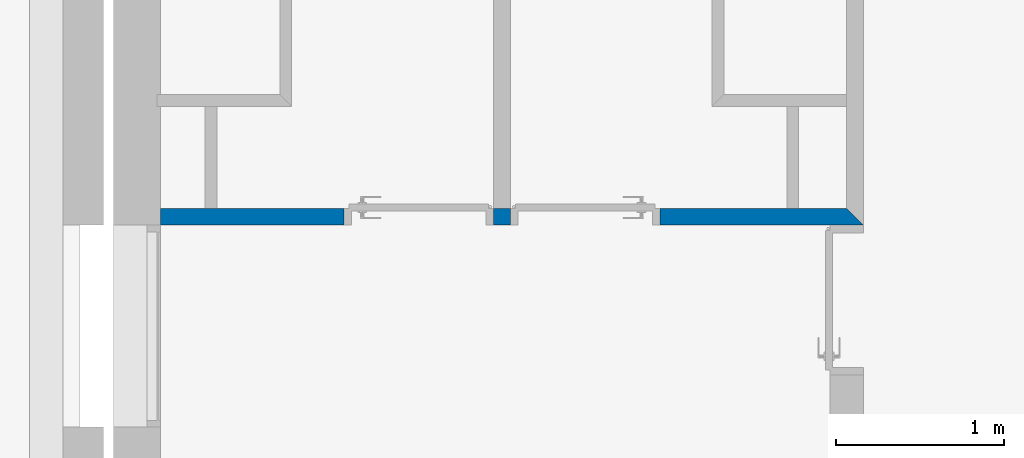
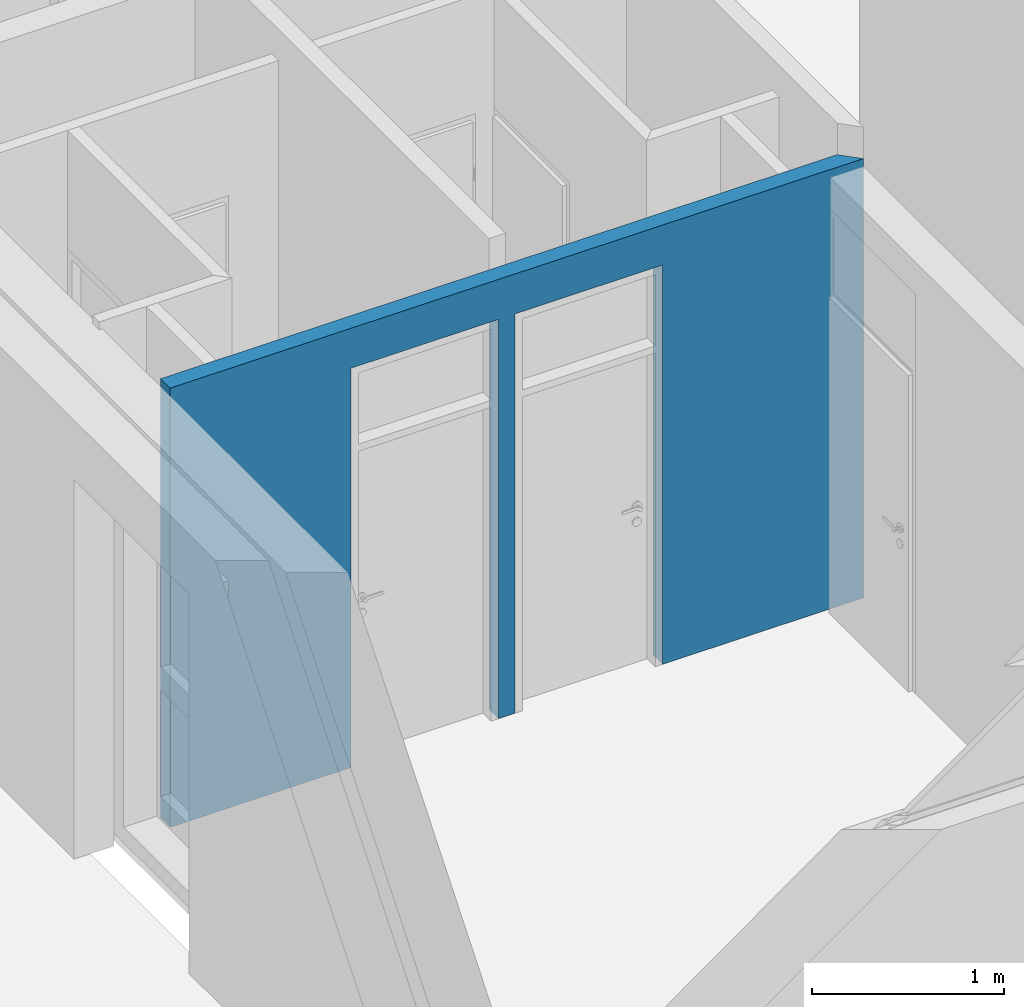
# One storey, part 4 of 45: 1 wall, 2 openings.
"""IFC2X3 building model written with IfcOpenShell, lengths in metres."""

from ifc_helpers import new_model, entity, si_unit, converted_unit, money_unit, direction, frame, origin_with_axes, place, context, subcontext, project, spatial, polyline, outline, extrude, material, layer, layer_set, layer_usage, type_object, element, save


model = new_model("IFC2X3")

# Units and contexts
model_context = context("Model", 3, precision=1e-05, world=origin_with_axes(), true_north=direction((0.0, 1.0)))
body_context = subcontext(model_context, "Body", "Model", "MODEL_VIEW")
ifc_project = project(units=[si_unit("LENGTHUNIT", "METRE"), si_unit("AREAUNIT", "SQUARE_METRE"), si_unit("VOLUMEUNIT", "CUBIC_METRE"), converted_unit("PLANEANGLEUNIT", "DEGREE", entity("IfcPlaneAngleMeasure", 0.0174532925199), si_unit("PLANEANGLEUNIT", "RADIAN"), dimensions=[0, 0, 0, 0, 0, 0, 0]), si_unit("SOLIDANGLEUNIT", "STERADIAN"), money_unit("EUR"), converted_unit("TIMEUNIT", "Year", entity("IfcTimeMeasure", 31556926.0), si_unit("TIMEUNIT", "SECOND"), dimensions=[0, 0, 0, 0, 0, 0, 0]), si_unit("MASSUNIT", "GRAM"), si_unit("THERMODYNAMICTEMPERATUREUNIT", "DEGREE_CELSIUS"), si_unit("LUMINOUSINTENSITYUNIT", "LUMEN")], contexts=[model_context])

# Site, building, storey
site_placement = place(None, origin_with_axes())
site = spatial("IfcSite", under=ifc_project, at=site_placement, Name="Site", CompositionType="ELEMENT")
building_placement = place(site_placement, origin_with_axes())
building = spatial("IfcBuilding", under=site, at=building_placement, Name="Bâtiment", CompositionType="ELEMENT")
storey_placement = place(building_placement, origin_with_axes())
storey = spatial("IfcBuildingStorey", under=building, at=storey_placement, Name="NIVEAU BAS GYMNASE", CompositionType="ELEMENT", Elevation=0.0)

# Wall, openings
ifc_material = material(Name="Hachure solide* 3962059836")
ifc_layer = layer(ifc_material, 0.1, ventilated="UNKNOWN")
ifc_layer_set = layer_set([ifc_layer], Name="Hachure solide* 3962059836 0.1")
ifc_layer_usage = layer_usage(ifc_layer_set, "AXIS2", "POSITIVE", 0.0)
wall_type = type_object("IfcWallType", Name="Hachure solide* 3962059836 100", PredefinedType="NOTDEFINED")
wall_placement = place(storey_placement, frame((45.478457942, 9.93881571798, 0.0), z_axis=(0.0, 0.0, 1.0), x_axis=(1.0, 0.0, 0.0)))
wall = element("IfcWallStandardCase", 1, at=wall_placement, inside=storey, type_object=wall_type, material=ifc_layer_usage, Name="Mur-001", context=body_context, shape_type="SweptSolid", body=[
    extrude(outline(polyline([(0.28, 0.0), (4.46, 0.0), (4.36, 0.1), (0.28, 0.1), (0.28, 0.0)])), origin_with_axes(), (0.0, 0.0, 1.0), 2.8),
])
opening_1_placement = place(wall_placement, frame((2.80499999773, 0.0, -0.01), z_axis=(0.0, 0.0, 1.0), x_axis=(1.0, 0.0, 0.0)))
element("IfcOpeningElement", 2, at=opening_1_placement, cuts=wall, Name="Por-017", context=body_context, shape_type="SweptSolid", body=[
    extrude(outline(polyline([(0.445, 0.0), (-0.445, 0.0), (-0.445, -2.555), (0.445, -2.555), (0.445, 0.0)])), frame((0.0, -0.1, 0.0), z_axis=(0.0, 1.0, 0.0), x_axis=(1.0, 0.0, 0.0)), (0.0, 0.0, 1.0), 0.2),
])
opening_2_placement = place(wall_placement, frame((1.81500000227, 0.0, -0.01), z_axis=(0.0, 0.0, 1.0), x_axis=(1.0, 0.0, 0.0)))
element("IfcOpeningElement", 3, at=opening_2_placement, cuts=wall, Name="Por-018", context=body_context, shape_type="SweptSolid", body=[
    extrude(outline(polyline([(-0.445, 0.0), (-0.445, -2.555), (0.445, -2.555), (0.445, 0.0), (-0.445, 0.0)])), frame((0.0, -0.1, 0.0), z_axis=(0.0, 1.0, 0.0), x_axis=(1.0, 0.0, 0.0)), (0.0, 0.0, 1.0), 0.2),
])

save(model, "model.ifc")
